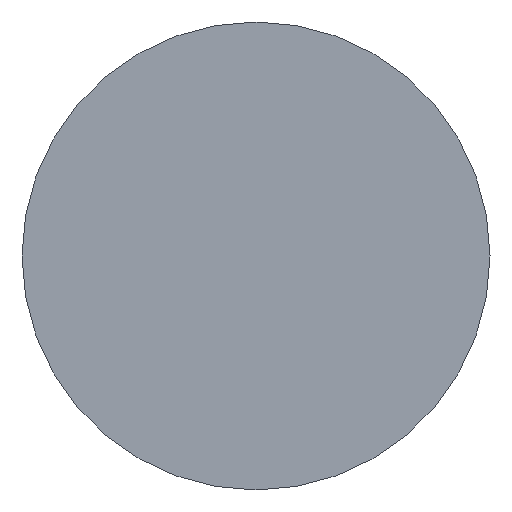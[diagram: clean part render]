
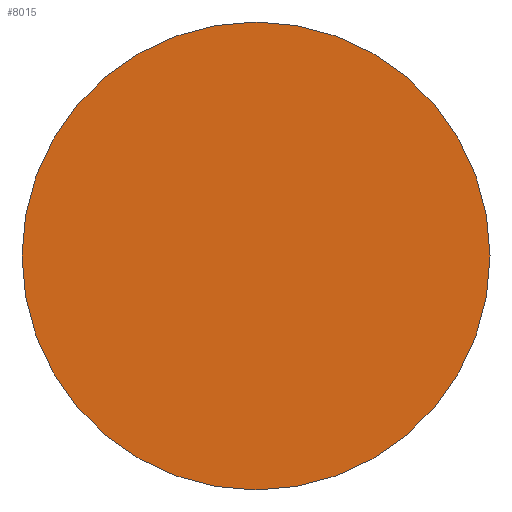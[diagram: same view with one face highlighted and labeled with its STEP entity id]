
A CAD part, top view. The second image highlights one B-rep face of the part: STEP entity #8015.
In plain terms, the highlighted planar face has unit normal (0, 0, 1).
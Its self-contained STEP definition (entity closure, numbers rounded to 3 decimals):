
#136 = CIRCLE ( 'NONE', #4394, 20. ) ;
#2035 = DIRECTION ( 'NONE',  ( 0., 0., -1. ) ) ;
#3746 = FACE_OUTER_BOUND ( 'NONE', #9713, .T. ) ;
#4148 = VERTEX_POINT ( 'NONE', #7866 ) ;
#4394 = AXIS2_PLACEMENT_3D ( 'NONE', #5205, #6247, #9042 ) ;
#4894 = DIRECTION ( 'NONE',  ( -1., 0., 0. ) ) ;
#5205 = CARTESIAN_POINT ( 'NONE',  ( 0., 0., 70. ) ) ;
#6247 = DIRECTION ( 'NONE',  ( 0., 0., -1. ) ) ;
#6885 = EDGE_CURVE ( 'NONE', #4148, #4148, #136, .T. ) ;
#7866 = CARTESIAN_POINT ( 'NONE',  ( -20., 0., 70. ) ) ;
#8015 = ADVANCED_FACE ( 'NONE', ( #3746 ), #9352, .F. ) ;
#8432 = CARTESIAN_POINT ( 'NONE',  ( 20., 0., 70. ) ) ;
#9042 = DIRECTION ( 'NONE',  ( -1., 0., 0. ) ) ;
#9352 = PLANE ( 'NONE',  #10043 ) ;
#9713 = EDGE_LOOP ( 'NONE', ( #11740 ) ) ;
#10043 = AXIS2_PLACEMENT_3D ( 'NONE', #8432, #2035, #4894 ) ;
#11740 = ORIENTED_EDGE ( 'NONE', *, *, #6885, .F. ) ;
